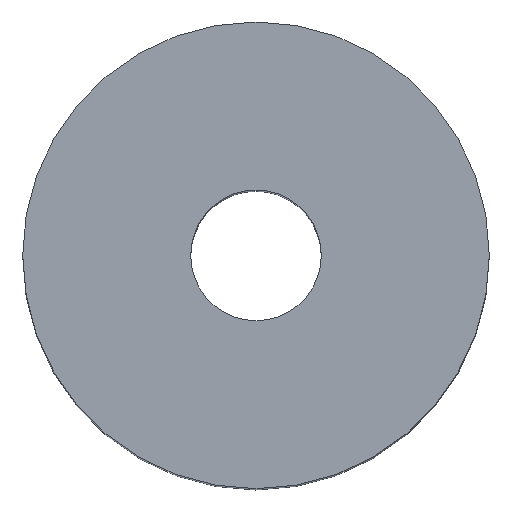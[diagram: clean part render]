
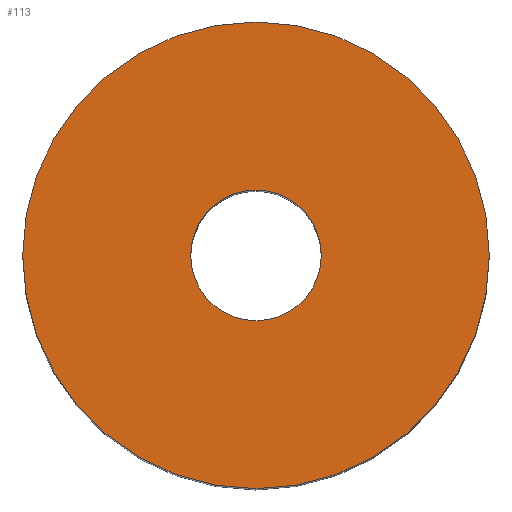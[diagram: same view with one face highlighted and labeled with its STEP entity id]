
A CAD part, top view. The second image highlights one B-rep face of the part: STEP entity #113.
In plain terms, the highlighted planar face has unit normal (0, 0, 1).
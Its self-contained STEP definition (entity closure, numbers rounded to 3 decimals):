
#113=ADVANCED_FACE('',(#121,#122),#119,.T.);
#119=PLANE('',#190);
#121=FACE_BOUND('',#125,.T.);
#122=FACE_BOUND('',#126,.T.);
#125=EDGE_LOOP('',(#133,#134));
#126=EDGE_LOOP('',(#135,#136));
#133=ORIENTED_EDGE('',*,*,#165,.T.);
#134=ORIENTED_EDGE('',*,*,#166,.T.);
#135=ORIENTED_EDGE('',*,*,#167,.F.);
#136=ORIENTED_EDGE('',*,*,#168,.F.);
#157=VERTEX_POINT('',#236);
#158=VERTEX_POINT('',#237);
#159=VERTEX_POINT('',#240);
#160=VERTEX_POINT('',#241);
#165=EDGE_CURVE('',#157,#158,#177,.T.);
#166=EDGE_CURVE('',#158,#157,#178,.T.);
#167=EDGE_CURVE('',#159,#160,#179,.T.);
#168=EDGE_CURVE('',#160,#159,#180,.T.);
#177=CIRCLE('',#186,25.);
#178=CIRCLE('',#187,25.);
#179=CIRCLE('',#188,7.);
#180=CIRCLE('',#189,7.);
#186=AXIS2_PLACEMENT_3D('',#235,#202,#203);
#187=AXIS2_PLACEMENT_3D('',#238,#204,#205);
#188=AXIS2_PLACEMENT_3D('',#239,#206,#207);
#189=AXIS2_PLACEMENT_3D('',#242,#208,#209);
#190=AXIS2_PLACEMENT_3D('',#243,#210,#211);
#202=DIRECTION('',(0.,0.,1.));
#203=DIRECTION('',(0.,1.,0.));
#204=DIRECTION('',(0.,0.,1.));
#205=DIRECTION('',(0.,-1.,0.));
#206=DIRECTION('',(0.,0.,1.));
#207=DIRECTION('',(0.,-1.,0.));
#208=DIRECTION('',(0.,0.,1.));
#209=DIRECTION('',(0.,1.,0.));
#210=DIRECTION('',(0.,0.,1.));
#211=DIRECTION('',(0.,1.,0.));
#235=CARTESIAN_POINT('',(0.,0.,80.));
#236=CARTESIAN_POINT('',(-25.,0.,80.));
#237=CARTESIAN_POINT('',(25.,0.,80.));
#238=CARTESIAN_POINT('',(0.,0.,80.));
#239=CARTESIAN_POINT('',(0.,0.,80.));
#240=CARTESIAN_POINT('',(7.,0.,80.));
#241=CARTESIAN_POINT('',(-7.,0.,80.));
#242=CARTESIAN_POINT('',(0.,0.,80.));
#243=CARTESIAN_POINT('',(0.,0.,80.));
